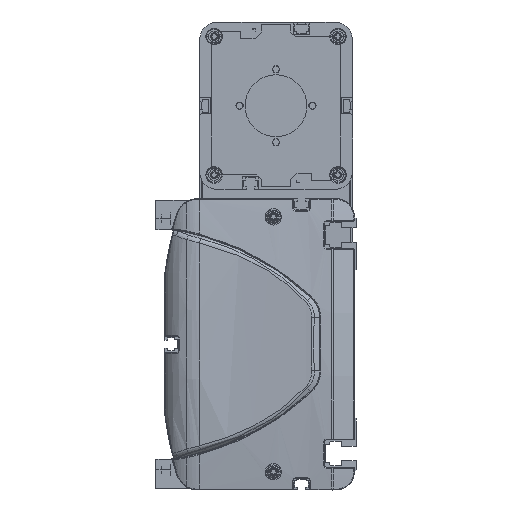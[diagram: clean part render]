
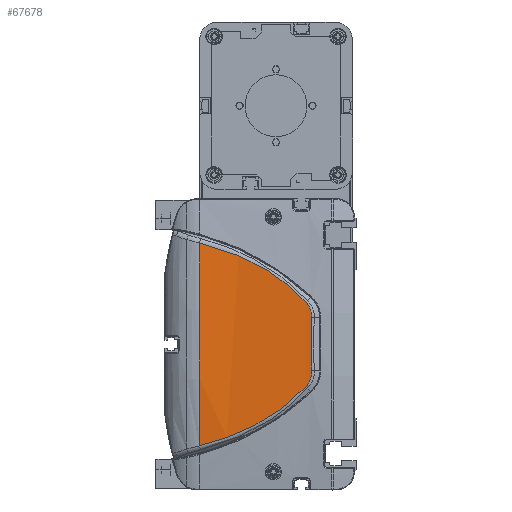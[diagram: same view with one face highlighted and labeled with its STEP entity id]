
A CAD part, left-side view. The second image highlights one B-rep face of the part: STEP entity #67678.
In plain terms, the highlighted cylindrical face has radius 600 mm (diameter 1200 mm), a partial arc.
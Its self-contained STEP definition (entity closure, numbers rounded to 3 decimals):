
#62697=CARTESIAN_POINT('',(-12.406,86.,
55.736));
#62698=CARTESIAN_POINT('',(-12.529,80.495,
54.41));
#62699=CARTESIAN_POINT('',(-12.828,69.636,
51.114));
#62700=CARTESIAN_POINT('',(-13.389,54.079,
44.179));
#62701=CARTESIAN_POINT('',(-14.01,39.709,
34.979));
#62702=CARTESIAN_POINT('',(-14.395,31.353,
27.243));
#62703=CARTESIAN_POINT('',(-14.555,27.451,
23.113));
#62705=CARTESIAN_POINT('',(-14.555,27.451,
23.113));
#62706=CARTESIAN_POINT('',(-14.641,25.336,
20.875));
#62707=CARTESIAN_POINT('',(-14.745,24.202,
17.745));
#62708=CARTESIAN_POINT('',(-14.821,24.351,
14.67));
#62710=CARTESIAN_POINT('',(-14.821,24.351,
14.67));
#62711=CARTESIAN_POINT('',(-14.9,24.51,
11.413));
#62712=CARTESIAN_POINT('',(-15.007,24.721,
4.895));
#62713=CARTESIAN_POINT('',(-15.007,24.721,
-4.895));
#62714=CARTESIAN_POINT('',(-14.9,24.51,
-11.413));
#62715=CARTESIAN_POINT('',(-14.821,24.351,
-14.67));
#62717=CARTESIAN_POINT('',(-14.821,24.351,
-14.67));
#62718=CARTESIAN_POINT('',(-14.745,24.202,
-17.745));
#62719=CARTESIAN_POINT('',(-14.641,25.337,
-20.876));
#62720=CARTESIAN_POINT('',(-14.555,27.451,
-23.113));
#62722=CARTESIAN_POINT('',(-14.555,27.451,
-23.113));
#62723=CARTESIAN_POINT('',(-14.395,31.353,
-27.243));
#62724=CARTESIAN_POINT('',(-14.01,39.709,
-34.979));
#62725=CARTESIAN_POINT('',(-13.389,54.079,
-44.179));
#62726=CARTESIAN_POINT('',(-12.828,69.636,
-51.114));
#62727=CARTESIAN_POINT('',(-12.529,80.495,
-54.41));
#62728=CARTESIAN_POINT('',(-12.406,86.,
-55.736));
#62730=CARTESIAN_POINT('',(585.,86.,0.));
#62731=DIRECTION('',(0.,1.,0.));
#62732=DIRECTION('',(-0.996,0.,-0.093));
#62733=AXIS2_PLACEMENT_3D('',#62730,#62731,#62732);
#62746=CARTESIAN_POINT('',(-12.406,86.,
55.736));
#63254=VERTEX_POINT('',#62746);
#63255=CARTESIAN_POINT('',(-12.406,86.,
-55.736));
#63256=VERTEX_POINT('',#63255);
#63308=VERTEX_POINT('',#62703);
#63309=VERTEX_POINT('',#62708);
#63310=VERTEX_POINT('',#62715);
#63311=VERTEX_POINT('',#62720);
#67660=CARTESIAN_POINT('',(585.,87.45,0.));
#67661=DIRECTION('',(0.,-1.,0.));
#67662=DIRECTION('',(0.,0.,-1.));
#67663=AXIS2_PLACEMENT_3D('',#67660,#67661,#67662);
#67664=CYLINDRICAL_SURFACE('',#67663,600.);
#67666=ORIENTED_EDGE('',*,*,#67665,.T.);
#67668=ORIENTED_EDGE('',*,*,#67667,.T.);
#67669=ORIENTED_EDGE('',*,*,#67650,.T.);
#67671=ORIENTED_EDGE('',*,*,#67670,.T.);
#67673=ORIENTED_EDGE('',*,*,#67672,.T.);
#67675=ORIENTED_EDGE('',*,*,#67674,.T.);
#67676=EDGE_LOOP('',(#67666,#67668,#67669,#67671,#67673,#67675));
#67677=FACE_OUTER_BOUND('',#67676,.F.);
#67678=ADVANCED_FACE('',(#67677),#67664,.T.);
#62704=B_SPLINE_CURVE_WITH_KNOTS('',3,(#62697,#62698,#62699,#62700,#62701,
#62702,#62703),.UNSPECIFIED.,.F.,.F.,(4,1,1,1,4),(0.,0.25,0.5,0.75,
1.),.UNSPECIFIED.);
#62709=B_SPLINE_CURVE_WITH_KNOTS('',3,(#62705,#62706,#62707,#62708),
.UNSPECIFIED.,.F.,.F.,(4,4),(0.,1.),.UNSPECIFIED.);
#62716=B_SPLINE_CURVE_WITH_KNOTS('',3,(#62710,#62711,#62712,#62713,#62714,
#62715),.UNSPECIFIED.,.F.,.F.,(4,1,1,4),(0.,0.333,
0.667,1.),.UNSPECIFIED.);
#62721=B_SPLINE_CURVE_WITH_KNOTS('',3,(#62717,#62718,#62719,#62720),
.UNSPECIFIED.,.F.,.F.,(4,4),(0.,1.),.UNSPECIFIED.);
#62729=B_SPLINE_CURVE_WITH_KNOTS('',3,(#62722,#62723,#62724,#62725,#62726,
#62727,#62728),.UNSPECIFIED.,.F.,.F.,(4,1,1,1,4),(0.,0.25,0.5,0.75,
1.),.UNSPECIFIED.);
#62734=CIRCLE('',#62733,600.);
#67650=EDGE_CURVE('',#63309,#63310,#62716,.T.);
#67665=EDGE_CURVE('',#63254,#63308,#62704,.T.);
#67667=EDGE_CURVE('',#63308,#63309,#62709,.T.);
#67670=EDGE_CURVE('',#63310,#63311,#62721,.T.);
#67672=EDGE_CURVE('',#63311,#63256,#62729,.T.);
#67674=EDGE_CURVE('',#63256,#63254,#62734,.T.);
